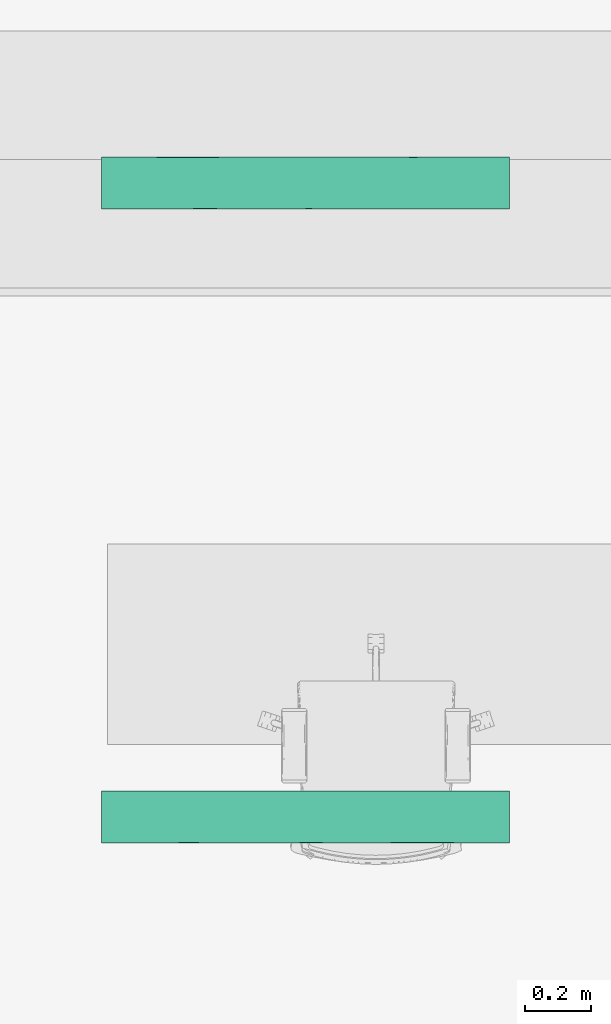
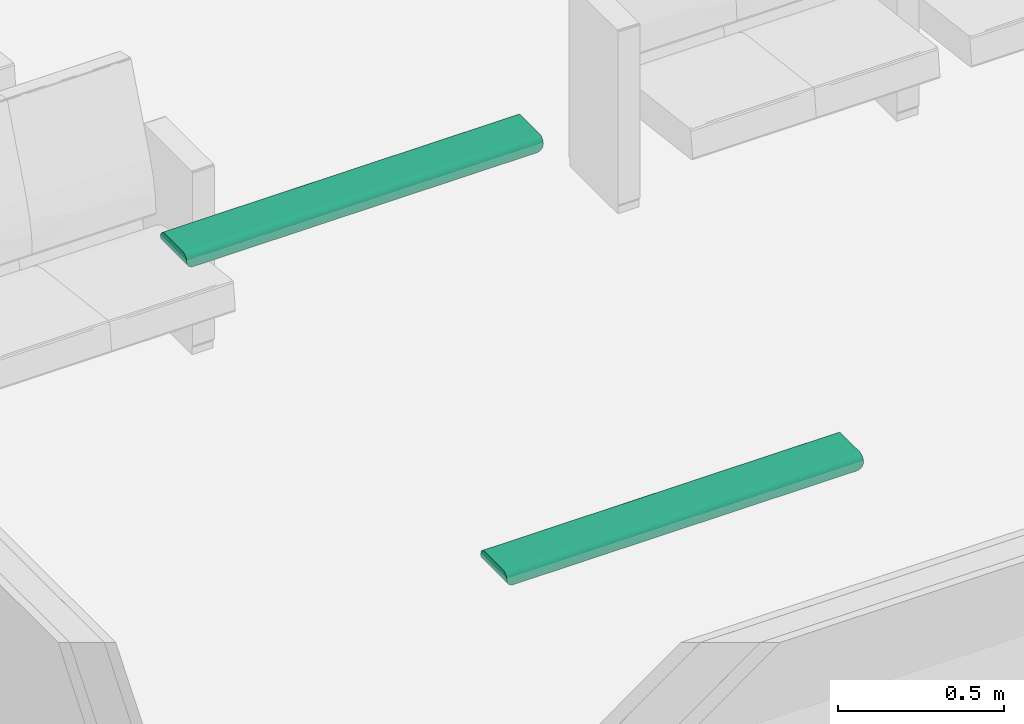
# One storey, part 57 of 155: 2 flow terminals.
"""IFC2X3 building model written with IfcOpenShell, lengths in metres."""

from ifc_helpers import new_model, entity, si_unit, converted_unit, derived_unit, direction, frame, origin, place, context, subcontext, project, spatial, faceted_brep, source, transform, mapped, material, material_list, type_object, type_shapes, element, save


model = new_model("IFC2X3")

# Units and contexts
model_context = context("Model", 3, precision=1e-05, world=origin(), true_north=direction((6.12303176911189e-17, 1.0)))
body_context = subcontext(model_context, "Body", "Model", "MODEL_VIEW")
ifc_project = project(units=[si_unit("LENGTHUNIT", "METRE"), si_unit("AREAUNIT", "SQUARE_METRE"), si_unit("VOLUMEUNIT", "CUBIC_METRE"), converted_unit("PLANEANGLEUNIT", "DEGREE", entity("IfcRatioMeasure", 0.0174532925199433), si_unit("PLANEANGLEUNIT", "RADIAN"), dimensions=[0, 0, 0, 0, 0, 0, 0]), si_unit("MASSUNIT", "GRAM", prefix="KILO"), derived_unit("MASSDENSITYUNIT", [(si_unit("MASSUNIT", "GRAM", prefix="KILO"), 1), (si_unit("LENGTHUNIT", "METRE"), -3)]), si_unit("TIMEUNIT", "SECOND"), si_unit("FREQUENCYUNIT", "HERTZ"), si_unit("THERMODYNAMICTEMPERATUREUNIT", "DEGREE_CELSIUS"), derived_unit("THERMALTRANSMITTANCEUNIT", [(si_unit("MASSUNIT", "GRAM", prefix="KILO"), 1), (si_unit("THERMODYNAMICTEMPERATUREUNIT", "KELVIN"), -1), (si_unit("TIMEUNIT", "SECOND"), -3)]), derived_unit("VOLUMETRICFLOWRATEUNIT", [(si_unit("LENGTHUNIT", "METRE"), 3), (si_unit("TIMEUNIT", "SECOND"), -1)]), si_unit("ELECTRICCURRENTUNIT", "AMPERE"), si_unit("ELECTRICVOLTAGEUNIT", "VOLT"), si_unit("POWERUNIT", "WATT"), si_unit("FORCEUNIT", "NEWTON", prefix="KILO"), si_unit("ILLUMINANCEUNIT", "LUX"), si_unit("LUMINOUSFLUXUNIT", "LUMEN"), si_unit("LUMINOUSINTENSITYUNIT", "CANDELA"), derived_unit("USERDEFINED", [(si_unit("MASSUNIT", "GRAM", prefix="KILO"), -1), (si_unit("LENGTHUNIT", "METRE"), -2), (si_unit("TIMEUNIT", "SECOND"), 3), (si_unit("LUMINOUSFLUXUNIT", "LUMEN"), 1)]), derived_unit("LINEARVELOCITYUNIT", [(si_unit("LENGTHUNIT", "METRE"), 1), (si_unit("TIMEUNIT", "SECOND"), -1)]), si_unit("PRESSUREUNIT", "PASCAL"), derived_unit("USERDEFINED", [(si_unit("LENGTHUNIT", "METRE"), -2), (si_unit("MASSUNIT", "GRAM", prefix="KILO"), 1), (si_unit("TIMEUNIT", "SECOND"), -2)])], contexts=[model_context])

# Site, building, storey, space
site_placement = place(None, frame((26.9889013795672, -17.5624287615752, 0.0)))
site = spatial("IfcSite", under=ifc_project, at=site_placement, Name="Default", CompositionType="ELEMENT")
building_placement = place(site_placement, origin())
building = spatial("IfcBuilding", under=site, at=building_placement, Name="C. C. L. Monsenhor Antônio Sampaio", CompositionType="ELEMENT")
storey_placement = place(building_placement, frame((0.0, 0.0, 1.19999999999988)))
storey = spatial("IfcBuildingStorey", under=building, at=storey_placement, Name="Nível 1.2", CompositionType="ELEMENT", Elevation=1.19999999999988)
space_placement = place(storey_placement, origin())
space = spatial("IfcSpace", under=storey, at=space_placement, Name="94", CompositionType="ELEMENT", InteriorOrExteriorSpace="INTERNAL")

# Flow terminals
ifc_material_1 = material(Name="glass - blue - t85")
ifc_material_2 = material(Name="metal - aluminium")
ifc_material_list_1 = material_list([ifc_material_1, ifc_material_2])
ifc_material_list_2 = material_list([ifc_material_1, ifc_material_2])
light_fixture_type = type_object("IfcLightFixtureType", Name="BCS460 W16L124 1xLED24/840 MLO-PC", PredefinedType="NOTDEFINED", material=ifc_material_list_2)
shared_shape = source(origin(), body_context, "Body", "Brep", [
    faceted_brep([(0.585000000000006, 0.0435000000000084, -0.0460000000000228), (0.585000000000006, -0.0434999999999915, -0.0460000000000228), (0.585000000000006, -0.0434999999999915, -0.0490000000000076), (0.585000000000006, 0.0435000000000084, -0.0490000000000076), (-0.584999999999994, 0.0435000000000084, -0.0460000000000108), (-0.584999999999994, 0.0435000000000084, -0.0489999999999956), (-0.584999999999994, -0.0434999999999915, -0.0489999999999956), (-0.584999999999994, -0.0434999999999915, -0.0460000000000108)], [[[0, 1, 2, 3]], [[4, 5, 6, 7]], [[3, 5, 4, 0]], [[2, 6, 5, 3]], [[1, 7, 6, 2]], [[0, 4, 7, 1]]]),
    faceted_brep([(-0.584999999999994, -0.0434999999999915, -0.0489999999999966), (0.585000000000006, -0.0434999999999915, -0.0490000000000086), (0.585000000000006, -0.0554999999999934, -0.0490000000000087), (0.417543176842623, -0.0554999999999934, -0.0490000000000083), (0.334912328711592, -0.0554999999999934, -0.0490000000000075), (0.209867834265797, -0.0554999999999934, -0.0490000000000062), (0.0848246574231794, -0.0554999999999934, -0.0490000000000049), (-0.0826321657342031, -0.0554999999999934, -0.0490000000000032), (-0.250087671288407, -0.0554999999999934, -0.0490000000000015), (-0.417543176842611, -0.0554999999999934, -0.0489999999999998), (-0.584999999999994, -0.0554999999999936, -0.0489999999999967), (-0.584999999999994, 0.0435000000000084, -0.0489999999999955), (-0.584999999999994, 0.0555000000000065, -0.0489999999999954), (-0.417543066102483, 0.0555000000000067, -0.0489999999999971), (-0.334913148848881, 0.0555000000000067, -0.048999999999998), (-0.209868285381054, 0.0555000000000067, -0.0489999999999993), (-0.0848248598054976, 0.0555000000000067, -0.0490000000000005), (0.0826306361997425, 0.0555000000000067, -0.0490000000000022), (0.250087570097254, 0.0555000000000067, -0.049000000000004), (0.417544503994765, 0.0555000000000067, -0.0490000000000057), (0.585000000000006, 0.0555000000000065, -0.0490000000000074), (0.585000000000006, 0.0435000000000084, -0.0490000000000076), (0.585000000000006, -0.0434999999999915, -0.0190000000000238), (0.585000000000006, 0.0435000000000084, -0.0190000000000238), (0.585000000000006, 0.0614528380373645, -0.0482162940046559), (0.585000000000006, 0.0670000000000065, -0.0459185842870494), (0.585000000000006, 0.0717634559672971, -0.0422634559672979), (0.585000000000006, 0.0754185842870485, -0.0375000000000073), (0.585000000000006, 0.077716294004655, -0.0319528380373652), (0.585000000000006, 0.0785000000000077, -0.0260000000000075), (0.585000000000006, 0.0785000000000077, 0.0), (0.585000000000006, -0.0784999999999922, 0.0), (0.585000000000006, -0.0784999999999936, -0.02600000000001), (0.585000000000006, -0.0777162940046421, -0.031952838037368), (0.585000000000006, -0.0754185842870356, -0.03750000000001), (0.585000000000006, -0.0717634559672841, -0.0422634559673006), (0.585000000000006, -0.0669999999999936, -0.0459185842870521), (0.585000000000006, -0.0614528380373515, -0.0482162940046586), (-0.584999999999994, 0.0435000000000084, -0.0190000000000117), (-0.584999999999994, -0.0434999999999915, -0.0190000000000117), (-0.584999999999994, -0.0614528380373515, -0.0482162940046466), (-0.584999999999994, -0.0669999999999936, -0.0459185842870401), (-0.584999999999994, -0.0717634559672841, -0.0422634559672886), (-0.584999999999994, -0.0754185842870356, -0.037499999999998), (-0.584999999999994, -0.0777162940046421, -0.031952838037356), (-0.584999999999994, -0.0784999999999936, -0.025999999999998), (-0.584999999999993, -0.0784999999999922, 0.0), (-0.584999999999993, 0.0785000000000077, 0.0), (-0.584999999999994, 0.0785000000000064, -0.0259999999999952), (-0.584999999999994, 0.077716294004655, -0.0319528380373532), (-0.584999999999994, 0.0754185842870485, -0.0374999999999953), (-0.584999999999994, 0.0717634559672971, -0.0422634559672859), (-0.584999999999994, 0.0670000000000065, -0.0459185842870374), (-0.584999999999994, 0.0614528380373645, -0.0482162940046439), (0.417543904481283, 0.0785000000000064, -0.0260000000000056), (0.334912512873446, 0.0785000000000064, -0.0260000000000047), (0.209868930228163, 0.0785000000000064, -0.0260000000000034), (0.0848250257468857, 0.0785000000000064, -0.0260000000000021), (-0.0826310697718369, 0.0785000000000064, -0.0260000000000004), (-0.250087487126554, 0.0785000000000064, -0.0259999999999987), (-0.417543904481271, 0.0785000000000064, -0.025999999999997), (-0.430283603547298, 0.073747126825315, -0.0400015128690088), (-0.39346878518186, 0.069501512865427, -0.0442471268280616), (-0.441987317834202, 0.0643017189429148, -0.0472492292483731), (-0.435801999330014, 0.0759760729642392, -0.0364752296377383), (0.43028360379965, 0.0695015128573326, -0.0442471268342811), (0.393468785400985, 0.0737471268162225, -0.0400015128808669), (-0.166359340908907, 0.0777768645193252, -0.0317220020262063), (-0.333815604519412, 0.078144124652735, -0.0300303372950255), (0.441987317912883, 0.0767492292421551, -0.0348017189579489), (0.376228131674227, 0.0780233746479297, -0.0306580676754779), (-0.0103058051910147, 0.0779837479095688, -0.0308457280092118), (0.147346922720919, 0.0778835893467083, -0.0312891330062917), (0.0846877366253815, 0.0752228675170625, -0.0378325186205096), (0.113930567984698, 0.0669406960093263, -0.0459527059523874), (0.259392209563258, 0.0628104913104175, -0.0478072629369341), (0.138751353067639, 0.0626656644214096, -0.0478552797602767), (-0.327642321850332, 0.0767492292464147, -0.0348017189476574), (-0.44845841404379, 0.0775260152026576, -0.0326222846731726), (0.274715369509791, 0.0767492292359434, -0.0348017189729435), (0.37104983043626, 0.0643017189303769, -0.0472492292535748), (0.333815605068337, 0.0596187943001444, -0.0486282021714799), (0.0893720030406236, 0.0707479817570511, -0.0432191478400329), (-0.0153938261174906, 0.0683034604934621, -0.0451068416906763), (-0.376228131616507, 0.0601580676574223, -0.0485233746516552), (0.0434325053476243, 0.059742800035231, -0.048605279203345), (0.218757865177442, 0.0695015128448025, -0.0442471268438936), (0.464656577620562, 0.0597129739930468, -0.0486108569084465), (0.199843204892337, 0.0732493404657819, -0.0406274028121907), (-0.274715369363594, 0.0643017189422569, -0.0472492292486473), (-0.115235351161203, 0.073747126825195, -0.0400015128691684), (-0.150791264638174, 0.070206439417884, -0.0436839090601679), (-0.272759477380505, 0.0724713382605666, -0.0415233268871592), (-0.00814072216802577, 0.0636892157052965, -0.0474927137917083), (-0.14734692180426, 0.0607891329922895, -0.0483835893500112), (-0.269938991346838, 0.0692956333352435, -0.0444032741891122), (-0.201904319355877, 0.0758204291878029, -0.0367740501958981), (-0.0663340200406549, 0.0763921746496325, -0.0356185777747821), (-0.139314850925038, 0.066006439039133, -0.046460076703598), (-0.430283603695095, -0.0695015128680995, -0.0442471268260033), (-0.393468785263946, -0.073747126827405, -0.0400015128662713), (-0.44198731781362, -0.0767492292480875, -0.0348017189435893), (-0.435801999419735, -0.06597522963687, -0.0464760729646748), (0.430283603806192, -0.0737471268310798, -0.0400015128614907), (0.393468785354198, -0.0695015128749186, -0.0442471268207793), (-0.166359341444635, -0.061222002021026, -0.0482768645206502), (-0.333815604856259, -0.0595303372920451, -0.0486441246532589), (0.441987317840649, -0.0643017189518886, -0.0472492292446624), (0.37622813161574, -0.0601580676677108, -0.0485233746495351), (-0.0103058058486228, -0.0603457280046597, -0.0484837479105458), (0.147346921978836, -0.0607891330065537, -0.0483835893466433), (0.0846877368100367, -0.0673325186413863, -0.0457228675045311), (0.113930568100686, -0.0754527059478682, -0.0374406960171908), (0.259392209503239, -0.0773072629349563, -0.0333104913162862), (0.138751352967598, -0.0773552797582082, -0.0331656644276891), (-0.327642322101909, -0.0643017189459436, -0.047249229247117), (-0.448458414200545, -0.062122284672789, -0.048026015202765), (-0.417543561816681, -0.0784999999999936, -0.0259999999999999), (0.274715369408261, -0.0643017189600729, -0.0472492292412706), (0.371049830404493, -0.0767492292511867, -0.0348017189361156), (0.333815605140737, -0.0781282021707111, -0.0301187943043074), (0.250087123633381, -0.0784999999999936, -0.0260000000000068), (0.0893720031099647, -0.0727191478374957, -0.041247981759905), (-0.0153938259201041, -0.074606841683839, -0.0388034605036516), (-0.376228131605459, -0.0780233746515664, -0.0306580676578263), (0.0826306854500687, -0.0784999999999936, -0.026000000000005), (-0.0848257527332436, -0.0784999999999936, -0.0260000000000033), (0.0434325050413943, -0.0781052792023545, -0.030242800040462), (0.417543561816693, -0.0784999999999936, -0.0260000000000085), (0.21875786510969, -0.0737471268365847, -0.0400015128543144), (0.464656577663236, -0.0781108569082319, -0.0302129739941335), (0.19984320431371, -0.0701274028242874, -0.0437493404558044), (-0.274715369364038, -0.0767492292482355, -0.0348017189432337), (-0.115235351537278, -0.0695015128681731, -0.0442471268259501), (-0.150791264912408, -0.0731839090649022, -0.0407064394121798), (-0.209869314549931, -0.0784999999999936, -0.026000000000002), (-0.334912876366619, -0.0784999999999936, -0.0260000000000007), (-0.272759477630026, -0.071023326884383, -0.0429713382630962), (-0.00814072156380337, -0.0769927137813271, -0.0341892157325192), (-0.147346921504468, -0.0778835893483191, -0.03128913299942), (-0.269938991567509, -0.0739032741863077, -0.0397956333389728), (-0.201904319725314, -0.0662740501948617, -0.0463204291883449), (-0.0663340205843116, -0.0651185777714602, -0.0468921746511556), (-0.139314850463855, -0.0759600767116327, -0.0365064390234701)], [[[0, 1, 2, 3, 4, 5, 6, 7, 8, 9, 10]], [[11, 12, 13, 14, 15, 16, 17, 18, 19, 20, 21]], [[22, 23, 21, 20, 24, 25, 26, 27, 28, 29, 30, 31, 32, 33, 34, 35, 36, 37, 2, 1]], [[12, 11, 38, 39, 0, 10, 40, 41, 42, 43, 44, 45, 46, 47, 48, 49, 50, 51, 52, 53]], [[47, 30, 29, 54, 55, 56, 57, 58, 59, 60, 48]], [[61, 51, 50]], [[62, 51, 61]], [[51, 62, 52]], [[62, 63, 52]], [[63, 53, 52]], [[61, 50, 64]], [[26, 65, 66]], [[26, 25, 65]], [[54, 29, 28]], [[67, 68, 59]], [[69, 70, 28]], [[71, 72, 73]], [[74, 75, 76]], [[26, 66, 27]], [[77, 78, 68]], [[13, 12, 53]], [[69, 27, 66]], [[79, 73, 72]], [[24, 80, 25]], [[70, 79, 72]], [[69, 28, 27]], [[75, 81, 18]], [[82, 74, 83]], [[63, 84, 53]], [[17, 16, 85]], [[19, 18, 81]], [[75, 74, 86]], [[87, 81, 80]], [[73, 79, 88]], [[70, 56, 55, 54]], [[80, 86, 65]], [[89, 63, 62]], [[90, 83, 91]], [[84, 15, 14, 13]], [[61, 77, 92]], [[59, 68, 60]], [[78, 49, 48]], [[20, 87, 24]], [[93, 76, 85]], [[66, 65, 86]], [[65, 25, 80]], [[62, 61, 92]], [[77, 64, 78]], [[92, 90, 91]], [[89, 94, 84]], [[28, 70, 54]], [[79, 69, 66]], [[53, 84, 13]], [[91, 95, 92]], [[96, 90, 92]], [[56, 72, 57]], [[70, 69, 79]], [[70, 72, 56]], [[67, 59, 58]], [[71, 67, 58]], [[71, 58, 57]], [[83, 90, 82]], [[88, 82, 73]], [[96, 97, 90]], [[71, 73, 97]], [[15, 94, 16]], [[84, 63, 89]], [[84, 94, 15]], [[98, 83, 93]], [[83, 98, 91]], [[18, 17, 76]], [[62, 92, 95]], [[98, 95, 91]], [[98, 94, 89]], [[74, 76, 93]], [[93, 94, 98]], [[85, 16, 94]], [[19, 81, 87]], [[80, 81, 75]], [[19, 87, 20]], [[24, 87, 80]], [[78, 48, 60]], [[77, 68, 67]], [[68, 78, 60]], [[49, 78, 50]], [[78, 64, 50]], [[64, 77, 61]], [[94, 93, 85]], [[85, 76, 17]], [[97, 67, 71]], [[72, 71, 57]], [[77, 67, 96]], [[90, 97, 73]], [[97, 96, 67]], [[77, 96, 92]], [[80, 75, 86]], [[76, 75, 18]], [[95, 89, 62]], [[89, 95, 98]], [[86, 74, 82]], [[83, 74, 93]], [[86, 82, 88]], [[73, 82, 90]], [[88, 66, 86]], [[66, 88, 79]], [[99, 42, 41]], [[100, 42, 99]], [[42, 100, 43]], [[100, 101, 43]], [[101, 44, 43]], [[99, 41, 102]], [[35, 103, 104]], [[35, 34, 103]], [[3, 2, 37]], [[105, 106, 8]], [[107, 108, 37]], [[109, 110, 111]], [[112, 113, 114]], [[35, 104, 36]], [[115, 116, 106]], [[117, 45, 44]], [[107, 36, 104]], [[118, 111, 110]], [[33, 119, 34]], [[108, 118, 110]], [[107, 37, 36]], [[113, 120, 121]], [[122, 112, 123]], [[101, 124, 44]], [[125, 126, 127]], [[128, 121, 120]], [[113, 112, 129]], [[130, 120, 119]], [[111, 118, 131]], [[108, 5, 4, 3]], [[119, 129, 103]], [[132, 101, 100]], [[133, 123, 134]], [[124, 135, 136, 117]], [[99, 115, 137]], [[8, 106, 9]], [[116, 40, 10]], [[32, 130, 33]], [[138, 114, 127]], [[104, 103, 129]], [[103, 34, 119]], [[100, 99, 137]], [[115, 102, 116]], [[137, 133, 134]], [[132, 139, 124]], [[37, 108, 3]], [[118, 107, 104]], [[44, 124, 117]], [[134, 140, 137]], [[141, 133, 137]], [[5, 110, 6]], [[108, 107, 118]], [[108, 110, 5]], [[105, 8, 7]], [[109, 105, 7]], [[109, 7, 6]], [[123, 133, 122]], [[131, 122, 111]], [[141, 142, 133]], [[109, 111, 142]], [[135, 139, 126]], [[124, 101, 132]], [[124, 139, 135]], [[143, 123, 138]], [[123, 143, 134]], [[121, 125, 114]], [[100, 137, 140]], [[143, 140, 134]], [[143, 139, 132]], [[112, 114, 138]], [[138, 139, 143]], [[127, 126, 139]], [[128, 120, 130]], [[119, 120, 113]], [[128, 130, 32]], [[33, 130, 119]], [[116, 10, 9]], [[115, 106, 105]], [[106, 116, 9]], [[40, 116, 41]], [[116, 102, 41]], [[102, 115, 99]], [[139, 138, 127]], [[127, 114, 125]], [[142, 105, 109]], [[110, 109, 6]], [[115, 105, 141]], [[133, 142, 111]], [[142, 141, 105]], [[115, 141, 137]], [[119, 113, 129]], [[114, 113, 121]], [[140, 132, 100]], [[132, 140, 143]], [[129, 112, 122]], [[123, 112, 138]], [[129, 122, 131]], [[111, 122, 133]], [[131, 104, 129]], [[104, 131, 118]], [[31, 46, 45, 117, 136, 135, 126, 125, 121, 128, 32]], [[46, 31, 30, 47]], [[21, 23, 38, 11]], [[22, 1, 0, 39]], [[23, 22, 39, 38]]]),
    faceted_brep([(0.597000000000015, 0.0785000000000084, 0.0), (0.602952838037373, 0.0785000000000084, -0.000783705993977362), (0.608500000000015, 0.0785000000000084, -0.00308141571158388), (0.613263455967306, 0.0785000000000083, -0.00673654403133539), (0.616918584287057, 0.0785000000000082, -0.011499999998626), (0.619216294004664, 0.0785000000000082, -0.017047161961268), (0.620000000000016, 0.0785000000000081, -0.0229999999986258), (0.620000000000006, 0.0785000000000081, -0.0259999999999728), (0.585000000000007, 0.0785000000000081, -0.0259999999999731), (0.585000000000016, 0.0785000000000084, 0.0), (0.619216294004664, -0.0784999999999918, -0.0170471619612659), (0.616918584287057, -0.0784999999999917, -0.0114999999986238), (0.613263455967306, -0.0784999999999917, -0.00673654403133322), (0.608500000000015, -0.0784999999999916, -0.00308141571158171), (0.602952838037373, -0.0784999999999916, -0.000783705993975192), (0.597000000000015, -0.0784999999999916, 0.0), (0.585000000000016, -0.0784999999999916, 0.0), (0.585000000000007, -0.0784999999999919, -0.0260000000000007), (0.620000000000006, -0.0784999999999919, -0.0260000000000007), (0.620000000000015, -0.0784999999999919, -0.0229999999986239), (0.620000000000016, 0.0669999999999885, -0.0459185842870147), (0.620000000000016, 0.0717634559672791, -0.0422634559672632), (0.620000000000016, 0.0754185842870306, -0.0374999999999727), (0.620000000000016, 0.0777162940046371, -0.0319528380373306), (0.620000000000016, -0.0777162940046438, -0.0319528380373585), (0.620000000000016, -0.0754185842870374, -0.0375000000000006), (0.620000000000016, -0.071763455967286, -0.0422634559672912), (0.620000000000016, -0.0669999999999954, -0.0459185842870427), (0.620000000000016, -0.0614528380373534, -0.0482162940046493), (0.620000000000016, -0.0554999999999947, -0.0489999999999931), (0.620000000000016, 0.0554999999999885, -0.0489999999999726), (0.620000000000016, 0.0614528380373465, -0.0482162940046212), (0.585000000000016, 0.0554999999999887, -0.048999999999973), (0.585000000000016, -0.0554999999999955, -0.0490000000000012), (0.585000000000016, -0.0614528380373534, -0.0482162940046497), (0.585000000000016, -0.0669999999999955, -0.0459185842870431), (0.585000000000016, -0.071763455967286, -0.0422634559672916), (0.585000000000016, -0.0754185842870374, -0.0375000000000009), (0.585000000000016, -0.0777162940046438, -0.0319528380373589), (0.585000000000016, 0.0777162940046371, -0.031952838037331), (0.585000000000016, 0.0754185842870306, -0.037499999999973), (0.585000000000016, 0.0717634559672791, -0.0422634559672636), (0.585000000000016, 0.0669999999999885, -0.0459185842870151), (0.585000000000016, 0.0614528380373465, -0.0482162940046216)], [[[0, 1, 2, 3, 4, 5, 6, 7, 8, 9]], [[10, 11, 12, 13, 14, 15, 16, 17, 18, 19]], [[20, 21, 22, 23, 7, 6, 19, 18, 24, 25, 26, 27, 28, 29, 30, 31]], [[32, 33, 34, 35, 36, 37, 38, 17, 16, 9, 8, 39, 40, 41, 42, 43]], [[16, 15, 0, 9]], [[11, 10, 5, 4]], [[12, 11, 4, 3]], [[6, 5, 10, 19]], [[14, 13, 2, 1]], [[15, 14, 1, 0]], [[2, 13, 12, 3]], [[43, 31, 30, 32]], [[43, 42, 20, 31]], [[21, 20, 42, 41]], [[23, 22, 40, 39]], [[7, 23, 39, 8]], [[40, 22, 21, 41]], [[29, 33, 32, 30]], [[25, 24, 38, 37]], [[26, 25, 37, 36]], [[17, 38, 24, 18]], [[28, 27, 35, 34]], [[29, 28, 34, 33]], [[35, 27, 26, 36]]]),
    faceted_brep([(-0.608499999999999, 0.0785000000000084, -0.00308141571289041), (-0.602952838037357, 0.0785000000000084, -0.000783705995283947), (-0.597, 0.0785000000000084, 0.0), (-0.584999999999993, 0.0785000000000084, 0.0), (-0.584999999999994, 0.0785000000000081, -0.0260000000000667), (-0.619999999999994, 0.0785000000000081, -0.0260000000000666), (-0.619999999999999, 0.0785000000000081, -0.0229999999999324), (-0.619216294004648, 0.0785000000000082, -0.0170471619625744), (-0.616918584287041, 0.0785000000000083, -0.0114999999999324), (-0.61326345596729, 0.0785000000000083, -0.00673654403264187), (-0.584999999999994, -0.0784999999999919, -0.0260000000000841), (-0.584999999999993, -0.0784999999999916, 0.0), (-0.596999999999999, -0.0784999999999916, 0.0), (-0.602952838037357, -0.0784999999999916, -0.000783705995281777), (-0.608499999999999, -0.0784999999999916, -0.00308141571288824), (-0.61326345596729, -0.0784999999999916, -0.0067365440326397), (-0.616918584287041, -0.0784999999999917, -0.0114999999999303), (-0.619216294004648, -0.0784999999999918, -0.0170471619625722), (-0.619999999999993, -0.0784999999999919, -0.0229999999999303), (-0.619999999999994, -0.0784999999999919, -0.0260000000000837), (-0.619999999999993, 0.0777162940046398, -0.0319528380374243), (-0.619999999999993, 0.0754185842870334, -0.0375000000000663), (-0.619999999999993, 0.071763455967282, -0.042263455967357), (-0.619999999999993, 0.0669999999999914, -0.0459185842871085), (-0.619999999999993, 0.0614528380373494, -0.048216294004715), (-0.619999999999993, 0.0554999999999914, -0.0490000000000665), (-0.619999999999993, -0.0554999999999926, -0.0490000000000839), (-0.619999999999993, -0.0614528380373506, -0.0482162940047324), (-0.619999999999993, -0.0669999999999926, -0.0459185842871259), (-0.619999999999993, -0.0717634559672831, -0.0422634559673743), (-0.619999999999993, -0.0754185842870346, -0.0375000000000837), (-0.619999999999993, -0.0777162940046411, -0.0319528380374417), (-0.584999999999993, 0.0614528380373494, -0.0482162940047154), (-0.584999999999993, 0.0669999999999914, -0.0459185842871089), (-0.584999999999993, 0.071763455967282, -0.0422634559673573), (-0.584999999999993, 0.0754185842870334, -0.0375000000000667), (-0.584999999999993, 0.0777162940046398, -0.0319528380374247), (-0.584999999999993, -0.0777162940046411, -0.0319528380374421), (-0.584999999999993, -0.0754185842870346, -0.0375000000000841), (-0.584999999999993, -0.0717634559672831, -0.0422634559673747), (-0.584999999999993, -0.0669999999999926, -0.0459185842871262), (-0.584999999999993, -0.0614528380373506, -0.0482162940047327), (-0.584999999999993, -0.0554999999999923, -0.0490000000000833), (-0.584999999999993, 0.0554999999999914, -0.0490000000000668)], [[[0, 1, 2, 3, 4, 5, 6, 7, 8, 9]], [[10, 11, 12, 13, 14, 15, 16, 17, 18, 19]], [[5, 20, 21, 22, 23, 24, 25, 26, 27, 28, 29, 30, 31, 19, 18, 6]], [[32, 33, 34, 35, 36, 4, 3, 11, 10, 37, 38, 39, 40, 41, 42, 43]], [[12, 11, 3, 2]], [[14, 13, 1, 0]], [[15, 14, 0, 9]], [[2, 1, 13, 12]], [[17, 16, 8, 7]], [[18, 17, 7, 6]], [[8, 16, 15, 9]], [[22, 21, 35, 34]], [[36, 20, 5, 4]], [[21, 20, 36, 35]], [[24, 23, 33, 32]], [[25, 24, 32, 43]], [[33, 23, 22, 34]], [[26, 25, 43, 42]], [[28, 27, 41, 40]], [[29, 28, 40, 39]], [[42, 41, 27, 26]], [[31, 30, 38, 37]], [[19, 31, 37, 10]], [[38, 30, 29, 39]]]),
])
type_shapes(light_fixture_type, [shared_shape])
flow_terminal_1_placement = place(space_placement, frame((-11.990552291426, -22.6390663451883, 2.8), z_axis=(0.0, 0.0, -1.0), x_axis=(-1.0, 0.0, 0.0)))
element("IfcFlowTerminal", 1, at=flow_terminal_1_placement, inside=space, type_object=light_fixture_type, material=ifc_material_list_1, Name="63_PHILIPS_smartform-LED-surface_f:BCS460 W16L124 1xLED24/840 MLO-PC", ObjectType="BCS460 W16L124 1xLED24/840 MLO-PC", context=body_context, shape_type="MappedRepresentation", body=[
    mapped(shared_shape, transform((0.0, 0.0, 0.0), scale=1.0)),
])
ifc_material_list_3 = material_list([ifc_material_1, ifc_material_2])
flow_terminal_2_placement = place(space_placement, frame((-11.990552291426, -20.7110663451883, 2.8), z_axis=(0.0, 0.0, -1.0), x_axis=(-1.0, 0.0, 0.0)))
element("IfcFlowTerminal", 2, at=flow_terminal_2_placement, inside=space, type_object=light_fixture_type, material=ifc_material_list_3, Name="63_PHILIPS_smartform-LED-surface_f:BCS460 W16L124 1xLED24/840 MLO-PC", ObjectType="BCS460 W16L124 1xLED24/840 MLO-PC", context=body_context, shape_type="MappedRepresentation", body=[
    mapped(shared_shape, transform((0.0, 0.0, 0.0), scale=1.0)),
])

save(model, "model.ifc")
